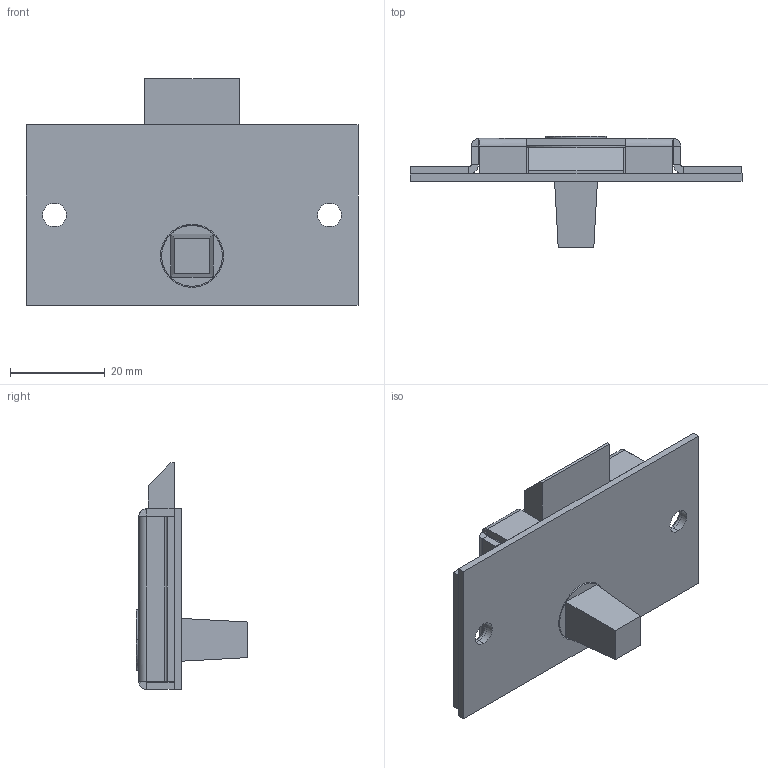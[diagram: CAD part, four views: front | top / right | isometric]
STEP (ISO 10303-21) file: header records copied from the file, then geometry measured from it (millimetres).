
FILE_DESCRIPTION (( 'STEP AP203' ), '1' );
FILE_NAME ('2.520.001.STEP', '2023-02-22T10:12:09', ( '' ), ( '' ), 'SwSTEP 2.0', 'SolidWorks 2021', '' );
FILE_SCHEMA (( 'CONFIG_CONTROL_DESIGN' ));
Length unit declared in the file: millimetre
Products named in the file (7): 2.520.001.06_A; 2.520.001.03_A; 2.520.001; 2.520.001.01_KW8-14; 2.520.001.04_A; 2.520.001.05_B; 2.520.001.02_A
Assembly tree (8 placements, depth 2):
  2.520.001
    2.520.001.04_A
    2.520.001.03_A
    2.520.001.02_A
    2.520.001.01_KW8-14
    2.520.001.06_A  x2
    2.520.001.05_B  x2
Bounding box: 70 x 23.5 x 47.71 mm (x, y, z)
Volume: 15246.1 mm3; surface area: 17545.8 mm2
Topology: 8 solids, 8 shells, 195 faces, 449 edges, 268 vertices
Faces by surface type: plane 92, cylinder 59, cone 22, bspline 14, torus 8
Entity records: 8184 total; most frequent: CARTESIAN_POINT 3337, DIRECTION 877, ORIENTED_EDGE 826, EDGE_CURVE 413, AXIS2_PLACEMENT_3D 312, VECTOR 253, LINE 253, VERTEX_POINT 248
